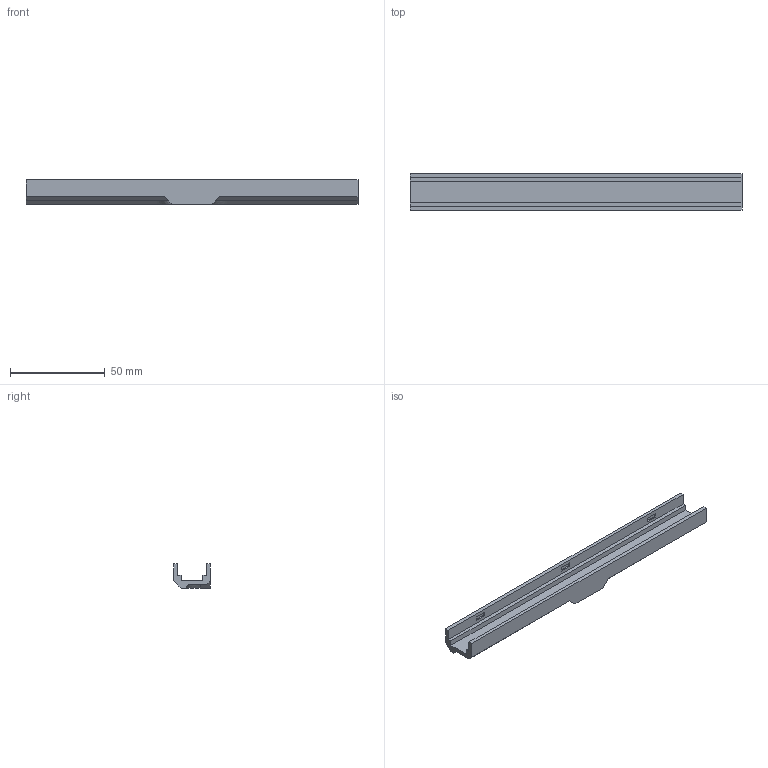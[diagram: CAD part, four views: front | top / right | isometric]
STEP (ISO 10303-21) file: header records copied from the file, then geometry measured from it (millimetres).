
FILE_DESCRIPTION(/* description */ ('STEP AP242','CAx-IF Rec.Pracs.---Representation and Presentation of Product Manufacturing Information (PMI)---4.0---2014-10-13','CAx-IF Rec.Pracs.---3D Tessellated Geometry---0.4---2014-09-14','2;1'),/* implementation_level */ '2;1');
FILE_NAME(/* name */ 'Base Shell - Center Cover',/* time_stamp */ '2025-07-21T16:38:39Z',/* author */ (''),/* organization */ (''),/* preprocessor_version */ 'ST-DEVELOPER v20',/* originating_system */ 'ONSHAPE BY PTC INC, 1.201',/* authorisation */ ' ');
FILE_SCHEMA (('AP242_MANAGED_MODEL_BASED_3D_ENGINEERING_MIM_LF { 1 0 10303 442 1 1 4 }'));
Length unit declared in the file: metre
Products named in the file (1): Center Cover
Bounding box: 175.66 x 19.5 x 12.9 mm (x, y, z)
Volume: 16495.6 mm3; surface area: 14017.6 mm2
Topology: 1 solids, 1 shells, 55 faces, 141 edges, 94 vertices
Faces by surface type: plane 53, cone 2
Entity records: 1661 total; most frequent: CARTESIAN_POINT 291, ORIENTED_EDGE 282, DIRECTION 257, EDGE_CURVE 141, LINE 137, VECTOR 137, VERTEX_POINT 94, EDGE_LOOP 61
